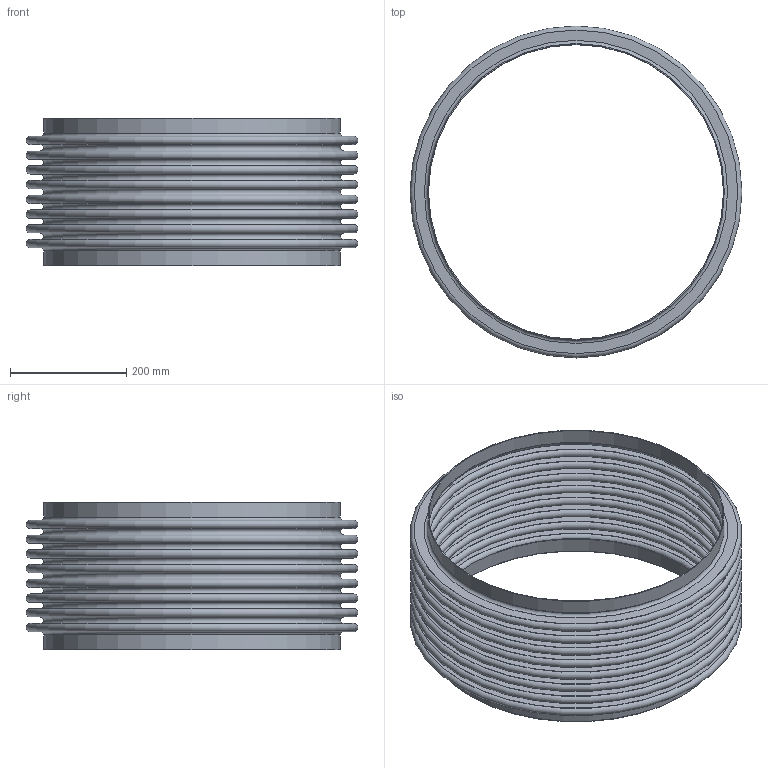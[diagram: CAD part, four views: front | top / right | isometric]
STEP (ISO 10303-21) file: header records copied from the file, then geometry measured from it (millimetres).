
FILE_DESCRIPTION(/* description */ ('STOCK BELLOWS: U.S-20-8-150S, 20.000 I.D., 22.500 O.D., 1 PLY, 16 GA (0.060 THICK), 8 CONS., 1.000 PITCH, 1.000 TANGENT. '),/* implementation_level */ '2;1');
FILE_NAME(/* name */ 'STOCK BELLOW - US-20-8-150S.stp',/* time_stamp */ '2026-07-21T13:06:03-05:00',/* author */ ('KennethB'),/* organization */ (''),/* preprocessor_version */ 'ST-DEVELOPER v20.1',/* originating_system */ 'Autodesk Inventor 2026',/* authorisation */ '');
FILE_SCHEMA (('AUTOMOTIVE_DESIGN { 1 0 10303 214 3 1 1 }'));
Length unit declared in the file: inch
Products named in the file (1): STOCK BELLOW - US-20-8-150S
Bounding box: 571.5 x 571.5 x 254 mm (x, y, z)
Volume: 1673422.1 mm3; surface area: 2210729 mm2
Topology: 3 solids, 3 shells, 76 faces, 114 edges, 77 vertices
Faces by surface type: plane 38, torus 34, cylinder 4
Full cylindrical faces by diameter (mm): 508 x2, 511.048 x2
Entity records: 1814 total; most frequent: DIRECTION 378, CARTESIAN_POINT 268, ORIENTED_EDGE 228, AXIS2_PLACEMENT_3D 187, EDGE_LOOP 114, EDGE_CURVE 114, CIRCLE 110, FACE_OUTER_BOUND 76
